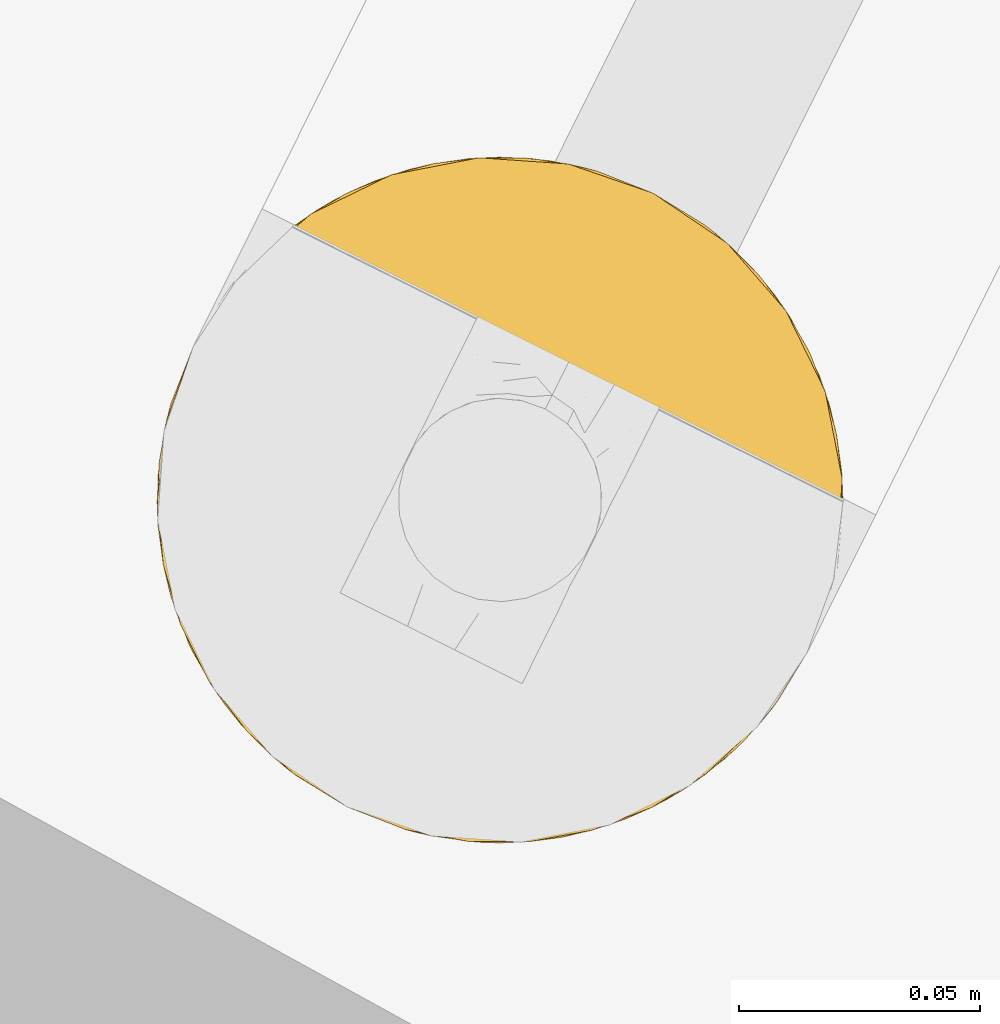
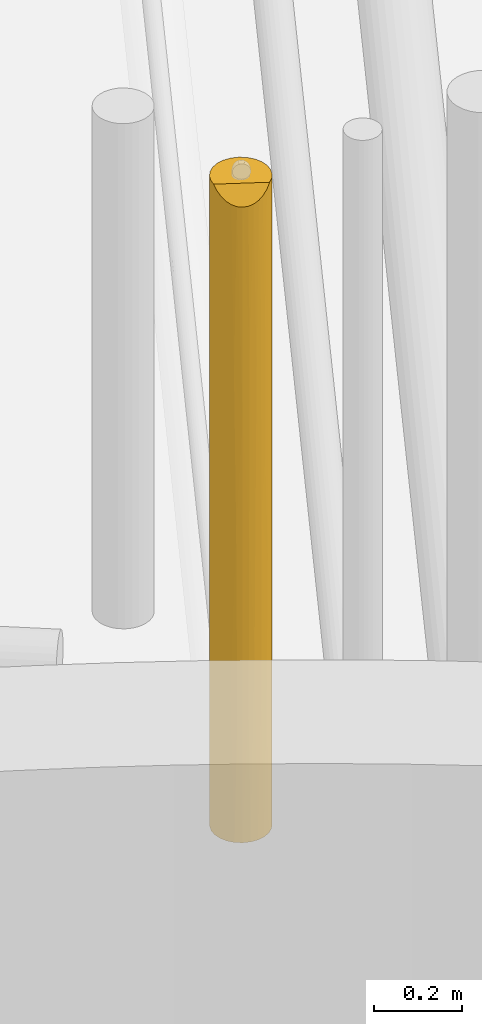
# One storey, part 14 of 47: 1 covering.
"""IFC2X3 building model written with IfcOpenShell, lengths in metres."""

from ifc_helpers import new_model, entity, si_unit, converted_unit, derived_unit, direction, frame, origin, place, context, subcontext, project, spatial, faceted_brep, element, save


model = new_model("IFC2X3")

# Units and contexts
model_context = context("Model", 3, precision=1e-05, world=origin(), true_north=direction((0.894925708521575, 0.446215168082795)))
context_of_model = context(None, 3, precision=1e-05, world=origin(), true_north=direction((0.894925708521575, 0.446215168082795)))
body_context = subcontext(model_context, "Body", "Model", "MODEL_VIEW")
ifc_project = project(units=[si_unit("LENGTHUNIT", "METRE"), si_unit("AREAUNIT", "SQUARE_METRE"), si_unit("VOLUMEUNIT", "CUBIC_METRE"), converted_unit("PLANEANGLEUNIT", "DEGREE", entity("IfcRatioMeasure", 0.0174532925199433), si_unit("PLANEANGLEUNIT", "RADIAN"), dimensions=[0, 0, 0, 0, 0, 0, 0]), si_unit("MASSUNIT", "GRAM", prefix="KILO"), si_unit("TIMEUNIT", "SECOND"), si_unit("FREQUENCYUNIT", "HERTZ"), si_unit("THERMODYNAMICTEMPERATUREUNIT", "DEGREE_CELSIUS"), derived_unit("THERMALTRANSMITTANCEUNIT", [(si_unit("MASSUNIT", "GRAM", prefix="KILO"), 1), (si_unit("THERMODYNAMICTEMPERATUREUNIT", "KELVIN"), -1), (si_unit("TIMEUNIT", "SECOND"), -3)]), derived_unit("VOLUMETRICFLOWRATEUNIT", [(si_unit("LENGTHUNIT", "METRE"), 3), (si_unit("TIMEUNIT", "SECOND"), -1)]), si_unit("ELECTRICCURRENTUNIT", "AMPERE"), si_unit("ELECTRICVOLTAGEUNIT", "VOLT"), si_unit("POWERUNIT", "WATT"), si_unit("FORCEUNIT", "NEWTON", prefix="KILO"), si_unit("ILLUMINANCEUNIT", "LUX"), si_unit("LUMINOUSFLUXUNIT", "LUMEN"), si_unit("LUMINOUSINTENSITYUNIT", "CANDELA"), si_unit("PRESSUREUNIT", "PASCAL")], contexts=[model_context, context_of_model])

# Site, building, storey
site_placement = place(None, frame((218.228324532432, 584.720189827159, 0.0), z_axis=(0.0, 0.0, 1.0), x_axis=(0.446215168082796, 0.894925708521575, 0.0)))
site = spatial("IfcSite", under=ifc_project, at=site_placement, Name="Default", CompositionType="ELEMENT")
building_placement = place(site_placement, origin())
building = spatial("IfcBuilding", under=site, at=building_placement, CompositionType="ELEMENT")
storey_placement = place(building_placement, frame((0.0, 0.0, 4.69)))
storey = spatial("IfcBuildingStorey", under=building, at=storey_placement, Name="1 - Piano Primo", CompositionType="ELEMENT", Elevation=4.69)

# Covering
covering_placement = place(storey_placement, frame((-68.5795434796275, -4.22375626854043, 2.99040472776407)))
element("IfcCovering", 1, at=covering_placement, inside=storey, Name="Isolamento tubazione:Default", ObjectType="Isolamento tubazione:Default", PredefinedType="INSULATION", context=body_context, shape_type="Brep", body=[
    faceted_brep([(0.122939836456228, 0.0224147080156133, 1.79759527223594), (0.134236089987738, 0.0371362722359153, 1.79759527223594), (0.141337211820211, 0.0542798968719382, 1.79759527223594), (0.143759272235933, 0.0726772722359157, 1.79759527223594), (0.141337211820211, 0.0910746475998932, 1.79759527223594), (0.134236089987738, 0.108218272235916, 1.79759527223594), (0.122939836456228, 0.122939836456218, 1.79759527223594), (0.108218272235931, 0.134236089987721, 1.79759527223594), (0.0910746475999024, 0.141337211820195, 1.79759527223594), (0.0726772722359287, 0.143759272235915, 1.79759527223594), (0.0562249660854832, 0.141829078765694, 1.79759527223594), (0.0406772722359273, 0.13614892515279, 1.79759527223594), (0.0406772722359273, 0.00920561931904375, 1.79759527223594), (0.0562249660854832, 0.003525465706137, 1.79759527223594), (0.0726772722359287, 0.0015952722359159, 1.79759527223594), (0.0910746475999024, 0.00401733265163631, 1.79759527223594), (0.108218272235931, 0.0111184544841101, 1.79759527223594), (0.104677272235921, 0.0092056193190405, 0.00159527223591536), (0.0891295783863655, 0.00352546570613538, 0.00159527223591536), (0.07267727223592, 0.00159527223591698, 0.00159527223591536), (0.0542798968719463, 0.00401733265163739, 0.00159527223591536), (0.037136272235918, 0.0111184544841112, 0.00159527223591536), (0.0224147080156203, 0.0224147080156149, 0.00159527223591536), (0.0111184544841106, 0.0371362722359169, 0.00159527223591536), (0.00401733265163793, 0.0542798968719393, 0.00159527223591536), (0.0015952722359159, 0.0726772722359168, 0.00159527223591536), (0.00401733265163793, 0.0910746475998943, 0.00159527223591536), (0.0111184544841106, 0.108218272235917, 0.00159527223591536), (0.0224147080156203, 0.122939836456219, 0.00159527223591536), (0.037136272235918, 0.134236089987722, 0.00159527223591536), (0.0542798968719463, 0.141337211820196, 0.00159527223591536), (0.07267727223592, 0.143759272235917, 0.00159527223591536), (0.0891295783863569, 0.141829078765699, 0.00159527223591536), (0.104677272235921, 0.136148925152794, 0.00159527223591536), (0.0454753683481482, 0.138348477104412, 0.460915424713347), (0.00159527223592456, 0.0726772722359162, 0.580969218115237), (0.00268162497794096, 0.0850570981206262, 0.351154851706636), (0.00700606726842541, 0.0998791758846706, 0.402420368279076), (0.00279477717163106, 0.0856806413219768, 1.75971277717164), (0.0043438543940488, 0.0922526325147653, 1.28973460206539), (0.00159527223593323, 0.0726772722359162, 1.16974154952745), (0.0113931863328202, 0.108689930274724, 1.33151228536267), (0.00926932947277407, 0.104803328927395, 0.905979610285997), (0.0294052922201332, 0.129070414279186, 0.399169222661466), (0.00314462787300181, 0.0874374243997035, 0.853052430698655), (0.0482852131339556, 0.139443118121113, 1.3124617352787), (0.016284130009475, 0.115949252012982, 0.482472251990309), (0.024076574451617, 0.124548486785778, 0.747694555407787), (0.058943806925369, 0.142419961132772, 0.675095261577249), (0.07267727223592, 0.143759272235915, 0.899595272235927), (0.07267727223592, 0.143759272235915, 0.590367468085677), (0.07267727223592, 0.143759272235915, 0.450595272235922), (0.0360489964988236, 0.133595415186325, 1.24229371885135), (0.0296060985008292, 0.129223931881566, 1.78652409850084), (0.00635280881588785, 0.0982451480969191, 1.7632708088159), (0.0121492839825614, 0.109946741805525, 1.76906728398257), (0.0199885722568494, 0.120390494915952, 1.77690657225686), (0.0250409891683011, 0.12543554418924, 1.29357166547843), (0.0360615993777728, 0.133602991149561, 0.903934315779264), (0.0587144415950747, 0.142374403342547, 1.04853808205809), (0.0170789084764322, 0.116965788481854, 1.04292401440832), (0.0602430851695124, 0.14266328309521, 1.35076639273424), (0.0726772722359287, 0.143759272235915, 1.50320917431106), (0.07267727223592, 0.143759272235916, 1.34859527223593), (0.00159527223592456, 0.0726772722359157, 1.75851327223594), (0.0593778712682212, 0.142504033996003, 0.326366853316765), (0.0726772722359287, 0.143759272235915, 1.17913966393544), (0.07267727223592, 0.143759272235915, 0.295981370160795), (0.00700606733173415, 0.0454753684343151, 0.530676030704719), (0.00285287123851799, 0.0593654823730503, 0.369230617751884), (0.0247872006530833, 0.0201492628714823, 1.04557557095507), (0.035789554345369, 0.0119158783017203, 1.12688794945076), (0.0249518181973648, 0.0199996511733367, 1.39066387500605), (0.00796806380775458, 0.0432601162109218, 0.903790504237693), (0.0163739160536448, 0.0292885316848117, 0.880540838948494), (0.00914512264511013, 0.0407975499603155, 1.27561560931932), (0.0162841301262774, 0.0294052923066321, 0.395265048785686), (0.0294052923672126, 0.016284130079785, 0.422161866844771), (0.0296060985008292, 0.0161306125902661, 1.78652409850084), (0.0199885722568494, 0.0249640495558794, 1.77690657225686), (0.00635280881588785, 0.0471093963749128, 1.7632708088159), (0.0121492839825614, 0.0354078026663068, 1.76906728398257), (0.0155486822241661, 0.0303809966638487, 1.45432001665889), (0.00336345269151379, 0.0569214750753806, 1.34165236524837), (0.00279477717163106, 0.0596739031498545, 1.75971277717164), (0.0454753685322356, 0.00700606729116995, 0.572573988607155), (0.0591985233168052, 0.00288490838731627, 0.458016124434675), (0.07267727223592, 0.0015952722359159, 0.295983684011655), (0.07267727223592, 0.0015952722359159, 0.450595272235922), (0.0726772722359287, 0.00159527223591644, 0.620050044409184), (0.0509306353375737, 0.00500353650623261, 0.980721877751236), (0.07267727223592, 0.0015952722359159, 0.899595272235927), (0.07267727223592, 0.0015952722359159, 1.20882265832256), (0.0326163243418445, 0.0139595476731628, 0.773905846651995), (0.048285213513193, 0.00591142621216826, 1.40734297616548), (0.0726772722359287, 0.0015952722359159, 1.5032068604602), (0.00314567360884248, 0.0579121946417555, 0.875354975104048), (0.035876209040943, 0.0118633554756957, 1.4682836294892), (0.0609259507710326, 0.00257336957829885, 1.35601612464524), (0.07267727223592, 0.0015952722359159, 1.34859527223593), (0.109519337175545, 0.0118881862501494, 0.342508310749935), (0.0970693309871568, 0.00591142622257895, 0.486728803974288), (0.121277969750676, 0.0208060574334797, 1.05149598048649), (0.120313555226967, 0.0199190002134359, 0.505618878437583), (0.128275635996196, 0.0283887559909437, 0.756266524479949), (0.129070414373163, 0.0294052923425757, 1.31671828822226), (0.115949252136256, 0.0162841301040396, 1.40002131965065), (0.0998791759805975, 0.00700606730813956, 1.33827511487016), (0.115748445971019, 0.0161306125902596, 0.0126664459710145), (0.142559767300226, 0.0596739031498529, 0.0394777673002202), (0.143759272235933, 0.0726772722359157, 0.0406772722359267), (0.143759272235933, 0.0726772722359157, 0.335070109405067), (0.143759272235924, 0.0726772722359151, 0.629451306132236), (0.0851114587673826, 0.00269126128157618, 0.448424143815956), (0.0866401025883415, 0.00298014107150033, 0.750652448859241), (0.133961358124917, 0.0366646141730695, 0.467678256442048), (0.125365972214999, 0.0249640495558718, 0.0222839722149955), (0.133205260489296, 0.0354078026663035, 0.030123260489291), (0.0859766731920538, 0.00285051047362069, 1.47282368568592), (0.138348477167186, 0.0454753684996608, 1.39677017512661), (0.142672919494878, 0.0602974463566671, 1.44803569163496), (0.0864107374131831, 0.00293458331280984, 1.12409527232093), (0.109292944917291, 0.011751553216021, 0.895256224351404), (0.136085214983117, 0.0405512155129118, 0.893210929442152), (0.141010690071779, 0.0531019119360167, 0.509455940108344), (0.142209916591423, 0.0579171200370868, 0.946138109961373), (0.143759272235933, 0.0726772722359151, 1.21822534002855), (0.139001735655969, 0.0471093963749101, 0.0359197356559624), (0.142559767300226, 0.085680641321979, 0.0394777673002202), (0.141961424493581, 0.0885630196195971, 0.482256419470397), (0.138348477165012, 0.0998791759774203, 1.43844140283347), (0.125365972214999, 0.12039049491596, 0.0222839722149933), (0.128779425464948, 0.116325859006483, 0.575126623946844), (0.133205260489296, 0.109946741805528, 0.0301232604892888), (0.120402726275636, 0.125354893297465, 0.408526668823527), (0.129070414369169, 0.115949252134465, 1.40392549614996), (0.115949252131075, 0.129070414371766, 1.37702867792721), (0.140270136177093, 0.0946739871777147, 1.03580584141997), (0.13620942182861, 0.104556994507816, 0.523574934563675), (0.139001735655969, 0.0982451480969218, 0.0359197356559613), (0.128980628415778, 0.116066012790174, 0.918649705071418), (0.099879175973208, 0.138348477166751, 1.22661655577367), (0.0861560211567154, 0.142469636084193, 1.34117441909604), (0.0970693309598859, 0.139443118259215, 0.391847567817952), (0.109478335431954, 0.133491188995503, 0.330906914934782), (0.115748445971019, 0.129223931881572, 0.0126664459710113), (0.142690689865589, 0.0849562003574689, 1.44999002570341), (0.112738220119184, 0.131394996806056, 1.02528469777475), (0.109564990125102, 0.13343866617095, 0.672302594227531), (0.0944239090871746, 0.140351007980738, 0.818468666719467), (0.120567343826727, 0.125205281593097, 0.753614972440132), (0.0844285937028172, 0.1427811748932, 0.443174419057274)], [[[0, 1, 2, 3, 4, 5, 6, 7, 8, 9, 10, 11, 12, 13, 14, 15, 16]], [[17, 18, 19, 20, 21, 22, 23, 24, 25, 26, 27, 28, 29, 30, 31, 32, 33]], [[30, 29, 34]], [[35, 36, 25]], [[27, 26, 37]], [[38, 39, 40]], [[41, 42, 39]], [[28, 43, 29]], [[39, 44, 40]], [[45, 11, 10]], [[43, 46, 47]], [[48, 49, 50, 51]], [[52, 11, 45]], [[44, 39, 42]], [[52, 53, 11]], [[41, 54, 55]], [[56, 57, 41]], [[58, 34, 43]], [[59, 49, 48]], [[38, 54, 39]], [[60, 42, 41]], [[58, 57, 52]], [[29, 43, 34]], [[56, 53, 57]], [[61, 9, 62, 63]], [[38, 40, 64]], [[27, 46, 28]], [[41, 39, 54]], [[46, 27, 37]], [[36, 44, 37]], [[58, 45, 59]], [[63, 59, 61]], [[34, 48, 65]], [[36, 37, 26]], [[59, 63, 66, 49]], [[42, 46, 37]], [[28, 46, 43]], [[46, 60, 47]], [[37, 44, 42]], [[30, 65, 31]], [[40, 44, 35]], [[65, 48, 51]], [[48, 34, 58]], [[58, 59, 48]], [[59, 45, 61]], [[56, 41, 55]], [[60, 41, 57]], [[65, 51, 67, 31]], [[34, 65, 30]], [[47, 57, 58]], [[46, 42, 60]], [[57, 47, 60]], [[58, 43, 47]], [[25, 36, 26]], [[44, 36, 35]], [[45, 10, 61]], [[9, 61, 10]], [[52, 57, 53]], [[45, 58, 52]], [[23, 68, 24]], [[69, 24, 68]], [[69, 25, 24]], [[70, 71, 72]], [[73, 74, 75]], [[76, 23, 22]], [[77, 76, 22]], [[72, 78, 79]], [[80, 75, 81]], [[75, 82, 81]], [[82, 74, 70]], [[83, 84, 64]], [[77, 21, 85]], [[64, 40, 83]], [[86, 87, 88, 89]], [[90, 89, 91, 92]], [[70, 74, 93]], [[90, 94, 71]], [[14, 13, 95]], [[96, 73, 83]], [[71, 97, 72]], [[20, 85, 21]], [[83, 80, 84]], [[97, 78, 72]], [[94, 13, 12]], [[20, 87, 86]], [[40, 96, 83]], [[97, 71, 94]], [[79, 81, 82]], [[22, 21, 77]], [[71, 93, 90]], [[98, 92, 99, 95]], [[70, 93, 71]], [[74, 68, 76]], [[74, 76, 77]], [[68, 23, 76]], [[90, 85, 86]], [[98, 13, 94]], [[20, 19, 87]], [[90, 86, 89]], [[20, 86, 85]], [[98, 90, 92]], [[13, 98, 95]], [[90, 98, 94]], [[82, 70, 72]], [[93, 74, 77]], [[77, 85, 93]], [[90, 93, 85]], [[94, 12, 97]], [[78, 97, 12]], [[40, 35, 96]], [[80, 83, 75]], [[69, 96, 35]], [[73, 96, 68]], [[74, 73, 68]], [[83, 73, 75]], [[74, 82, 75]], [[79, 82, 72]], [[96, 69, 68]], [[25, 69, 35]], [[17, 100, 101]], [[102, 103, 104]], [[102, 104, 105]], [[1, 0, 105]], [[106, 16, 107]], [[100, 108, 103]], [[109, 110, 111, 112]], [[17, 101, 18]], [[88, 113, 114]], [[115, 116, 117]], [[0, 16, 106]], [[118, 14, 95, 99]], [[119, 120, 2]], [[99, 121, 118]], [[101, 100, 122]], [[107, 16, 15]], [[123, 124, 125]], [[108, 116, 103]], [[3, 2, 120]], [[124, 109, 112]], [[125, 112, 126]], [[119, 2, 1]], [[121, 122, 107]], [[115, 127, 124]], [[1, 105, 119]], [[124, 123, 115]], [[124, 127, 109]], [[115, 117, 127]], [[113, 101, 114]], [[103, 115, 104]], [[114, 122, 121]], [[105, 123, 119]], [[18, 113, 19]], [[119, 123, 125]], [[122, 106, 107]], [[105, 0, 106]], [[114, 121, 91]], [[121, 99, 92, 91]], [[118, 107, 15]], [[114, 91, 89, 88]], [[122, 114, 101]], [[112, 125, 124]], [[125, 126, 120]], [[104, 115, 123]], [[116, 115, 103]], [[107, 118, 121]], [[14, 118, 15]], [[123, 105, 104]], [[105, 106, 102]], [[106, 122, 102]], [[103, 102, 122]], [[125, 120, 119]], [[3, 120, 126]], [[113, 88, 87, 19]], [[18, 101, 113]], [[108, 100, 17]], [[122, 100, 103]], [[128, 129, 111]], [[5, 4, 130]], [[131, 132, 133]], [[134, 132, 131]], [[135, 136, 6]], [[137, 112, 129]], [[138, 139, 133]], [[138, 140, 137]], [[141, 8, 7]], [[128, 139, 129]], [[142, 8, 141]], [[143, 33, 32]], [[33, 144, 145]], [[126, 146, 3]], [[146, 137, 130]], [[140, 147, 136]], [[134, 144, 148]], [[129, 139, 138]], [[112, 111, 129]], [[6, 136, 7]], [[111, 110, 128]], [[7, 136, 141]], [[148, 143, 149]], [[66, 142, 149]], [[145, 134, 131]], [[32, 31, 67]], [[8, 62, 9]], [[143, 148, 144]], [[129, 138, 137]], [[137, 126, 112]], [[135, 130, 140]], [[148, 150, 134]], [[138, 132, 140]], [[32, 67, 151]], [[149, 141, 147]], [[135, 6, 5]], [[140, 150, 147]], [[135, 5, 130]], [[140, 136, 135]], [[149, 143, 151]], [[149, 50, 49, 66]], [[146, 130, 4]], [[130, 137, 140]], [[3, 146, 4]], [[137, 146, 126]], [[8, 142, 62]], [[142, 66, 63, 62]], [[149, 142, 141]], [[151, 67, 51, 50]], [[149, 151, 50]], [[32, 151, 143]], [[150, 148, 147]], [[132, 150, 140]], [[149, 147, 148]], [[141, 136, 147]], [[145, 144, 134]], [[33, 143, 144]], [[133, 132, 138]], [[150, 132, 134]], [[38, 64, 84, 80, 81, 79, 78, 12, 11, 53, 56, 55, 54]], [[17, 33, 145, 131, 133, 139, 128, 110, 109, 127, 117, 116, 108]]]),
])

save(model, "model.ifc")
